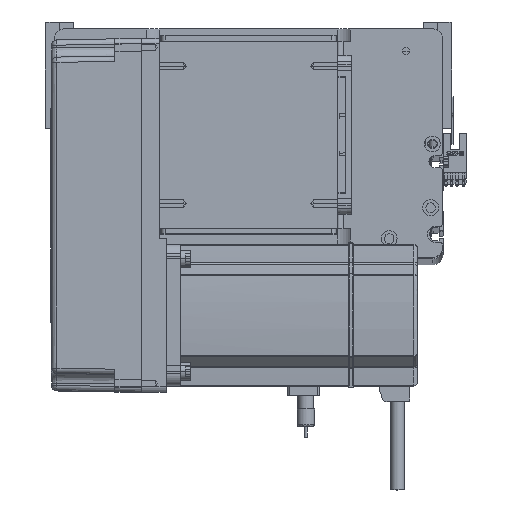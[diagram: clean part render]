
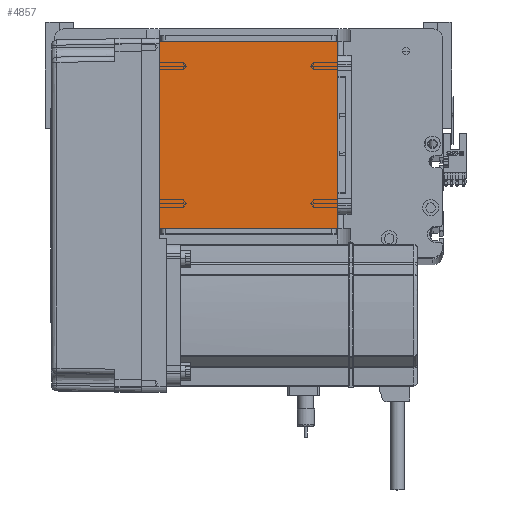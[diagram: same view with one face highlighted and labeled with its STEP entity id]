
A CAD part, top view. The second image highlights one B-rep face of the part: STEP entity #4857.
In plain terms, the highlighted planar face has unit normal (0, 0, 1).
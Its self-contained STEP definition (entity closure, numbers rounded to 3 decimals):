
#1185 = LINE ( 'NONE', #41688, #49500 ) ;
#1984 = CARTESIAN_POINT ( 'NONE',  ( -50.5, 122., 115. ) ) ;
#4857 = ADVANCED_FACE ( 'NONE', ( #15551 ), #36929, .T. ) ;
#5041 = ORIENTED_EDGE ( 'NONE', *, *, #8519, .T. ) ;
#5374 = AXIS2_PLACEMENT_3D ( 'NONE', #11783, #16770, #54346 ) ;
#6925 = EDGE_LOOP ( 'NONE', ( #14111, #39463, #5041, #22316 ) ) ;
#8519 = EDGE_CURVE ( 'NONE', #36831, #14975, #1185, .T. ) ;
#8586 = VECTOR ( 'NONE', #19854, 1000. ) ;
#11783 = CARTESIAN_POINT ( 'NONE',  ( 0., 0., 115. ) ) ;
#12161 = EDGE_CURVE ( 'NONE', #14975, #32044, #40333, .T. ) ;
#12972 = VERTEX_POINT ( 'NONE', #46000 ) ;
#12980 = DIRECTION ( 'NONE',  ( -1., 0., 0. ) ) ;
#14111 = ORIENTED_EDGE ( 'NONE', *, *, #28881, .T. ) ;
#14975 = VERTEX_POINT ( 'NONE', #40115 ) ;
#15158 = VECTOR ( 'NONE', #12980, 1000. ) ;
#15551 = FACE_OUTER_BOUND ( 'NONE', #6925, .T. ) ;
#15799 = DIRECTION ( 'NONE',  ( 0., -1., 0. ) ) ;
#16770 = DIRECTION ( 'NONE',  ( 0., 0., 1. ) ) ;
#19854 = DIRECTION ( 'NONE',  ( 1., 0., 0. ) ) ;
#22316 = ORIENTED_EDGE ( 'NONE', *, *, #12161, .T. ) ;
#25868 = LINE ( 'NONE', #28178, #26473 ) ;
#26473 = VECTOR ( 'NONE', #15799, 1000. ) ;
#28178 = CARTESIAN_POINT ( 'NONE',  ( -50.5, 122., 115. ) ) ;
#28881 = EDGE_CURVE ( 'NONE', #32044, #12972, #25868, .T. ) ;
#32044 = VERTEX_POINT ( 'NONE', #1984 ) ;
#33311 = DIRECTION ( 'NONE',  ( 0., 1., 0. ) ) ;
#33497 = CARTESIAN_POINT ( 'NONE',  ( -50.5, 122., 115. ) ) ;
#35764 = LINE ( 'NONE', #45177, #8586 ) ;
#36831 = VERTEX_POINT ( 'NONE', #49492 ) ;
#36929 = PLANE ( 'NONE',  #5374 ) ;
#39463 = ORIENTED_EDGE ( 'NONE', *, *, #45601, .T. ) ;
#40115 = CARTESIAN_POINT ( 'NONE',  ( 50.5, 122., 115. ) ) ;
#40333 = LINE ( 'NONE', #33497, #15158 ) ;
#41688 = CARTESIAN_POINT ( 'NONE',  ( 50.5, 122., 115. ) ) ;
#45177 = CARTESIAN_POINT ( 'NONE',  ( -50.5, 16., 115. ) ) ;
#45601 = EDGE_CURVE ( 'NONE', #12972, #36831, #35764, .T. ) ;
#46000 = CARTESIAN_POINT ( 'NONE',  ( -50.5, 16., 115. ) ) ;
#49492 = CARTESIAN_POINT ( 'NONE',  ( 50.5, 16., 115. ) ) ;
#49500 = VECTOR ( 'NONE', #33311, 1000. ) ;
#54346 = DIRECTION ( 'NONE',  ( 1., 0., 0. ) ) ;
